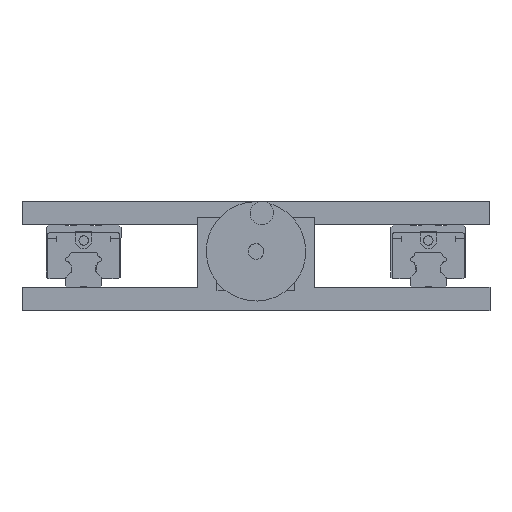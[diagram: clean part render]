
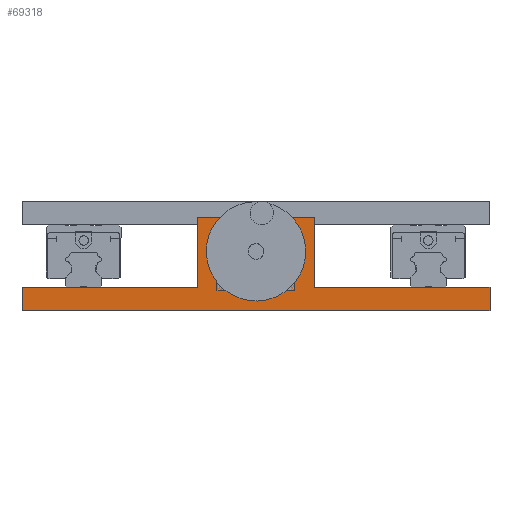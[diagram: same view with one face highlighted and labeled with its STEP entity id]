
A CAD part, front view. The second image highlights one B-rep face of the part: STEP entity #69318.
In plain terms, the highlighted planar face has unit normal (0, -1, 0).
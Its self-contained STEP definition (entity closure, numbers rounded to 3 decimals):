
#504 = VERTEX_POINT ( 'NONE', #62081 ) ;
#664 = ORIENTED_EDGE ( 'NONE', *, *, #62172, .T. ) ;
#712 = VERTEX_POINT ( 'NONE', #39247 ) ;
#1861 = ORIENTED_EDGE ( 'NONE', *, *, #13029, .T. ) ;
#2220 = VERTEX_POINT ( 'NONE', #42326 ) ;
#2516 = VECTOR ( 'NONE', #9479, 1000. ) ;
#2834 = VECTOR ( 'NONE', #41340, 1000. ) ;
#4047 = ORIENTED_EDGE ( 'NONE', *, *, #46178, .F. ) ;
#4432 = AXIS2_PLACEMENT_3D ( 'NONE', #36865, #56098, #68666 ) ;
#6452 = ORIENTED_EDGE ( 'NONE', *, *, #34811, .T. ) ;
#9281 = LINE ( 'NONE', #22053, #2516 ) ;
#9345 = LINE ( 'NONE', #72185, #73031 ) ;
#9479 = DIRECTION ( 'NONE',  ( 1., 0., 0. ) ) ;
#9501 = AXIS2_PLACEMENT_3D ( 'NONE', #11138, #23719, #29194 ) ;
#10886 = CARTESIAN_POINT ( 'NONE',  ( 0., -616.5, 38. ) ) ;
#11138 = CARTESIAN_POINT ( 'NONE',  ( 0., -616.5, 38. ) ) ;
#11270 = VERTEX_POINT ( 'NONE', #79528 ) ;
#13029 = EDGE_CURVE ( 'NONE', #68164, #2220, #59666, .T. ) ;
#13900 = LINE ( 'NONE', #36303, #62878 ) ;
#15313 = DIRECTION ( 'NONE',  ( 1., 0., 0. ) ) ;
#15387 = EDGE_CURVE ( 'NONE', #33515, #2220, #9345, .T. ) ;
#17282 = ORIENTED_EDGE ( 'NONE', *, *, #32549, .F. ) ;
#19606 = FACE_OUTER_BOUND ( 'NONE', #47115, .T. ) ;
#21304 = EDGE_CURVE ( 'NONE', #36761, #43880, #62804, .T. ) ;
#22053 = CARTESIAN_POINT ( 'NONE',  ( -150., -616.5, 0. ) ) ;
#23640 = VECTOR ( 'NONE', #63639, 1000. ) ;
#23719 = DIRECTION ( 'NONE',  ( 0., -1., 0. ) ) ;
#24254 = CARTESIAN_POINT ( 'NONE',  ( 150., -616.5, 15. ) ) ;
#24465 = FACE_BOUND ( 'NONE', #66657, .T. ) ;
#29194 = DIRECTION ( 'NONE',  ( 0., 0., 1. ) ) ;
#32549 = EDGE_CURVE ( 'NONE', #11270, #36761, #79679, .T. ) ;
#33515 = VERTEX_POINT ( 'NONE', #44660 ) ;
#34629 = DIRECTION ( 'NONE',  ( 1., 0., 0. ) ) ;
#34811 = EDGE_CURVE ( 'NONE', #33515, #35583, #46738, .T. ) ;
#35037 = ORIENTED_EDGE ( 'NONE', *, *, #59494, .F. ) ;
#35280 = VERTEX_POINT ( 'NONE', #73969 ) ;
#35508 = DIRECTION ( 'NONE',  ( 0., 0., -1. ) ) ;
#35583 = VERTEX_POINT ( 'NONE', #68307 ) ;
#36303 = CARTESIAN_POINT ( 'NONE',  ( 150., -616.5, 15. ) ) ;
#36305 = DIRECTION ( 'NONE',  ( 0., 0., 1. ) ) ;
#36464 = LINE ( 'NONE', #52857, #40326 ) ;
#36761 = VERTEX_POINT ( 'NONE', #62046 ) ;
#36865 = CARTESIAN_POINT ( 'NONE',  ( -150., -616.5, 15. ) ) ;
#39150 = EDGE_CURVE ( 'NONE', #504, #712, #66210, .T. ) ;
#39247 = CARTESIAN_POINT ( 'NONE',  ( 0., -616.5, 33. ) ) ;
#40326 = VECTOR ( 'NONE', #15313, 1000. ) ;
#41340 = DIRECTION ( 'NONE',  ( 0., 0., -1. ) ) ;
#41561 = ORIENTED_EDGE ( 'NONE', *, *, #15387, .F. ) ;
#42326 = CARTESIAN_POINT ( 'NONE',  ( -37.5, -616.5, 15. ) ) ;
#43880 = VERTEX_POINT ( 'NONE', #24254 ) ;
#44660 = CARTESIAN_POINT ( 'NONE',  ( -150., -616.5, 15. ) ) ;
#46178 = EDGE_CURVE ( 'NONE', #712, #504, #57239, .T. ) ;
#46382 = CARTESIAN_POINT ( 'NONE',  ( 37.5, -616.5, 60. ) ) ;
#46738 = LINE ( 'NONE', #61460, #61438 ) ;
#47115 = EDGE_LOOP ( 'NONE', ( #664, #35037, #73274, #17282, #56073, #1861, #41561, #6452 ) ) ;
#49320 = VECTOR ( 'NONE', #52480, 1000. ) ;
#51879 = CARTESIAN_POINT ( 'NONE',  ( -150., -616.5, 15. ) ) ;
#52480 = DIRECTION ( 'NONE',  ( 0., 0., -1. ) ) ;
#52857 = CARTESIAN_POINT ( 'NONE',  ( -37.5, -616.5, 60. ) ) ;
#54665 = DIRECTION ( 'NONE',  ( 0., 0., -1. ) ) ;
#56073 = ORIENTED_EDGE ( 'NONE', *, *, #65695, .F. ) ;
#56098 = DIRECTION ( 'NONE',  ( 0., 1., 0. ) ) ;
#57239 = CIRCLE ( 'NONE', #9501, 5. ) ;
#59494 = EDGE_CURVE ( 'NONE', #43880, #35280, #13900, .T. ) ;
#59666 = LINE ( 'NONE', #66122, #2834 ) ;
#61438 = VECTOR ( 'NONE', #54665, 1000. ) ;
#61460 = CARTESIAN_POINT ( 'NONE',  ( -150., -616.5, 15. ) ) ;
#61514 = PLANE ( 'NONE',  #4432 ) ;
#62046 = CARTESIAN_POINT ( 'NONE',  ( 37.5, -616.5, 15. ) ) ;
#62081 = CARTESIAN_POINT ( 'NONE',  ( 0., -616.5, 43. ) ) ;
#62172 = EDGE_CURVE ( 'NONE', #35583, #35280, #9281, .T. ) ;
#62804 = LINE ( 'NONE', #51879, #23640 ) ;
#62878 = VECTOR ( 'NONE', #35508, 1000. ) ;
#63639 = DIRECTION ( 'NONE',  ( 1., 0., 0. ) ) ;
#65695 = EDGE_CURVE ( 'NONE', #68164, #11270, #36464, .T. ) ;
#66122 = CARTESIAN_POINT ( 'NONE',  ( -37.5, -616.5, 60. ) ) ;
#66210 = CIRCLE ( 'NONE', #76488, 5. ) ;
#66657 = EDGE_LOOP ( 'NONE', ( #66865, #4047 ) ) ;
#66865 = ORIENTED_EDGE ( 'NONE', *, *, #39150, .F. ) ;
#68164 = VERTEX_POINT ( 'NONE', #74580 ) ;
#68307 = CARTESIAN_POINT ( 'NONE',  ( -150., -616.5, 0. ) ) ;
#68666 = DIRECTION ( 'NONE',  ( 0., 0., 1. ) ) ;
#69318 = ADVANCED_FACE ( 'NONE', ( #24465, #19606 ), #61514, .F. ) ;
#72185 = CARTESIAN_POINT ( 'NONE',  ( -150., -616.5, 15. ) ) ;
#73031 = VECTOR ( 'NONE', #34629, 1000. ) ;
#73274 = ORIENTED_EDGE ( 'NONE', *, *, #21304, .F. ) ;
#73969 = CARTESIAN_POINT ( 'NONE',  ( 150., -616.5, 0. ) ) ;
#74580 = CARTESIAN_POINT ( 'NONE',  ( -37.5, -616.5, 60. ) ) ;
#76488 = AXIS2_PLACEMENT_3D ( 'NONE', #10886, #79788, #36305 ) ;
#79528 = CARTESIAN_POINT ( 'NONE',  ( 37.5, -616.5, 60. ) ) ;
#79679 = LINE ( 'NONE', #46382, #49320 ) ;
#79788 = DIRECTION ( 'NONE',  ( 0., -1., 0. ) ) ;
